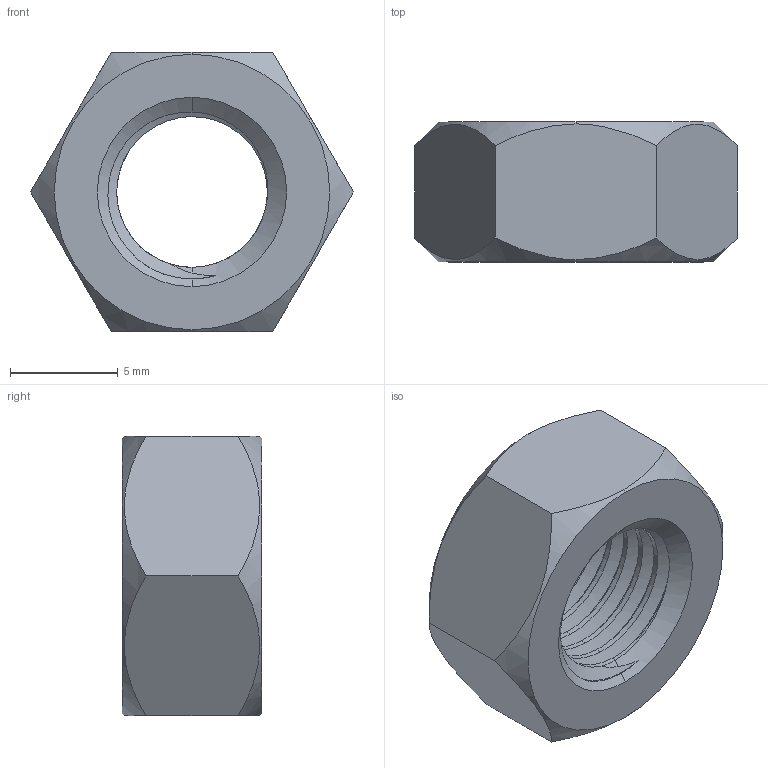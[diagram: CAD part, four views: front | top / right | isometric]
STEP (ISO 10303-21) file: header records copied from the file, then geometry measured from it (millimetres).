
FILE_DESCRIPTION (( 'STEP AP203' ), '1' );
FILE_NAME ('TANRM-304-M8x1.STEP', '2026-08-21T14:25:19', ( '' ), ( '' ), 'SwSTEP 2.0', 'SolidWorks 2020', '' );
FILE_SCHEMA (( 'CONFIG_CONTROL_DESIGN' ));
Length unit declared in the file: millimetre
Products named in the file (1): TANRM-304-M8x1
Bounding box: 15.01 x 6.5 x 13 mm (x, y, z)
Volume: 646.1 mm3; surface area: 692.7 mm2
Topology: 1 solids, 1 shells, 33 faces, 91 edges, 60 vertices
Faces by surface type: cylinder 12, cone 10, plane 8, bspline 3
Entity records: 2741 total; most frequent: CARTESIAN_POINT 1944, ORIENTED_EDGE 182, DIRECTION 113, EDGE_CURVE 91, VERTEX_POINT 60, AXIS2_PLACEMENT_3D 43, EDGE_LOOP 35, ADVANCED_FACE 33
